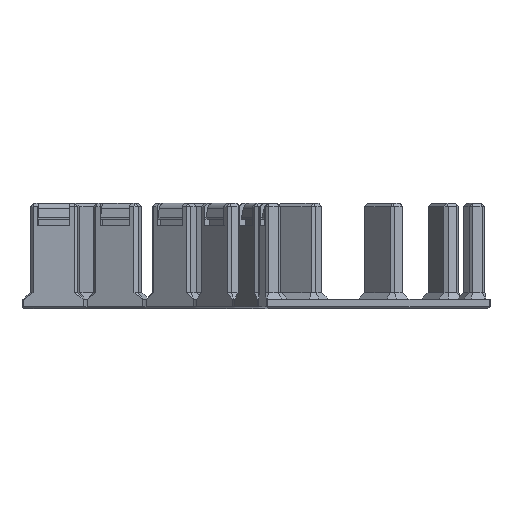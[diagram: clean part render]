
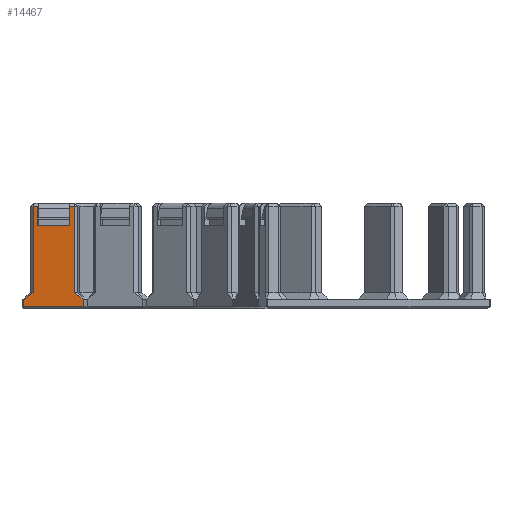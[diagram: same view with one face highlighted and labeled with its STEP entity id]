
A CAD part, front view. The second image highlights one B-rep face of the part: STEP entity #14467.
In plain terms, the highlighted planar face has unit normal (-0.131, -0.991, 0).
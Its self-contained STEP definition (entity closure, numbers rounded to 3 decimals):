
#193 = LINE ( 'NONE', #5449, #1107 ) ;
#284 = ORIENTED_EDGE ( 'NONE', *, *, #16087, .F. ) ;
#405 = CARTESIAN_POINT ( 'NONE',  ( 0., 0., 0.6 ) ) ;
#757 = ORIENTED_EDGE ( 'NONE', *, *, #11075, .T. ) ;
#1000 = CARTESIAN_POINT ( 'NONE',  ( 3.47, -0.457, 3. ) ) ;
#1028 = CARTESIAN_POINT ( 'NONE',  ( 0.222, -0.029, 2.683 ) ) ;
#1107 = VECTOR ( 'NONE', #6611, 1000. ) ;
#1164 = VERTEX_POINT ( 'NONE', #2416 ) ;
#1453 = CARTESIAN_POINT ( 'NONE',  ( 19.163, -2.523, -115.025 ) ) ;
#1605 = CARTESIAN_POINT ( 'NONE',  ( 0., 0., 3. ) ) ;
#1709 = VERTEX_POINT ( 'NONE', #2923 ) ;
#2051 = VERTEX_POINT ( 'NONE', #11899 ) ;
#2102 = ORIENTED_EDGE ( 'NONE', *, *, #5875, .T. ) ;
#2110 = ORIENTED_EDGE ( 'NONE', *, *, #13213, .F. ) ;
#2149 = EDGE_CURVE ( 'NONE', #16398, #17055, #9678, .T. ) ;
#2283 = DIRECTION ( 'NONE',  ( -0.81, 0.107, -0.577 ) ) ;
#2416 = CARTESIAN_POINT ( 'NONE',  ( 3.47, -0.457, 32. ) ) ;
#2446 = EDGE_CURVE ( 'NONE', #17071, #8688, #9128, .T. ) ;
#2448 = LINE ( 'NONE', #15890, #11977 ) ;
#2646 = CARTESIAN_POINT ( 'NONE',  ( 19.163, -2.523, 3. ) ) ;
#2894 = VECTOR ( 'NONE', #6282, 1000. ) ;
#2923 = CARTESIAN_POINT ( 'NONE',  ( 4.978, -0.655, 32. ) ) ;
#2943 = FACE_OUTER_BOUND ( 'NONE', #6278, .T. ) ;
#3035 = EDGE_CURVE ( 'NONE', #14623, #16398, #5364, .T. ) ;
#3121 = VECTOR ( 'NONE', #14956, 1000. ) ;
#3382 = LINE ( 'NONE', #10404, #5475 ) ;
#3553 = LINE ( 'NONE', #17156, #5430 ) ;
#3696 = VECTOR ( 'NONE', #15939, 1000. ) ;
#3939 = EDGE_CURVE ( 'NONE', #2051, #14623, #15708, .T. ) ;
#4006 = VECTOR ( 'NONE', #16543, 1000. ) ;
#4245 = VECTOR ( 'NONE', #16430, 1000. ) ;
#4340 = VERTEX_POINT ( 'NONE', #8563 ) ;
#4780 = VECTOR ( 'NONE', #2283, 1000. ) ;
#5056 = ORIENTED_EDGE ( 'NONE', *, *, #14574, .T. ) ;
#5364 = LINE ( 'NONE', #1453, #13915 ) ;
#5430 = VECTOR ( 'NONE', #13152, 1000. ) ;
#5438 = ORIENTED_EDGE ( 'NONE', *, *, #13066, .T. ) ;
#5449 = CARTESIAN_POINT ( 'NONE',  ( 14.785, -1.947, 26. ) ) ;
#5475 = VECTOR ( 'NONE', #6331, 1000. ) ;
#5875 = EDGE_CURVE ( 'NONE', #13545, #14283, #6796, .T. ) ;
#6278 = EDGE_LOOP ( 'NONE', ( #7380, #5056, #9437, #9543, #16404, #16015, #2102, #2110, #284, #14660, #5438, #757, #7226 ) ) ;
#6282 = DIRECTION ( 'NONE',  ( 0.991, -0.131, 0. ) ) ;
#6331 = DIRECTION ( 'NONE',  ( 0., 0., -1. ) ) ;
#6461 = DIRECTION ( 'NONE',  ( 0., 0., 1. ) ) ;
#6611 = DIRECTION ( 'NONE',  ( 0.991, -0.131, 0. ) ) ;
#6671 = CARTESIAN_POINT ( 'NONE',  ( 16.359, -2.154, 32. ) ) ;
#6789 = DIRECTION ( 'NONE',  ( 0., 0., 1. ) ) ;
#6796 = LINE ( 'NONE', #16313, #17449 ) ;
#6869 = PLANE ( 'NONE',  #13135 ) ;
#7008 = CARTESIAN_POINT ( 'NONE',  ( 6.388, -0.841, 12.112 ) ) ;
#7022 = LINE ( 'NONE', #12427, #4006 ) ;
#7159 = CARTESIAN_POINT ( 'NONE',  ( 3.47, -0.457, 5. ) ) ;
#7226 = ORIENTED_EDGE ( 'NONE', *, *, #2446, .T. ) ;
#7228 = CARTESIAN_POINT ( 'NONE',  ( 0.666, -0.088, 3. ) ) ;
#7380 = ORIENTED_EDGE ( 'NONE', *, *, #9520, .F. ) ;
#7936 = CARTESIAN_POINT ( 'NONE',  ( 4.978, -0.655, 26. ) ) ;
#8563 = CARTESIAN_POINT ( 'NONE',  ( 4.978, -0.655, 26. ) ) ;
#8688 = VERTEX_POINT ( 'NONE', #7228 ) ;
#8754 = CARTESIAN_POINT ( 'NONE',  ( 0., 0., 3. ) ) ;
#9128 = LINE ( 'NONE', #1028, #4780 ) ;
#9437 = ORIENTED_EDGE ( 'NONE', *, *, #3939, .T. ) ;
#9520 = EDGE_CURVE ( 'NONE', #14155, #8688, #13020, .T. ) ;
#9543 = ORIENTED_EDGE ( 'NONE', *, *, #3035, .T. ) ;
#9678 = LINE ( 'NONE', #7008, #4245 ) ;
#9798 = DIRECTION ( 'NONE',  ( -0.991, 0.131, 0. ) ) ;
#10404 = CARTESIAN_POINT ( 'NONE',  ( 0.345, -0.045, 3. ) ) ;
#11075 = EDGE_CURVE ( 'NONE', #1164, #17071, #12923, .T. ) ;
#11423 = CARTESIAN_POINT ( 'NONE',  ( 16.359, -2.154, 5. ) ) ;
#11899 = CARTESIAN_POINT ( 'NONE',  ( 0.345, -0.045, 0.6 ) ) ;
#11977 = VECTOR ( 'NONE', #6461, 1000. ) ;
#12427 = CARTESIAN_POINT ( 'NONE',  ( 0., 0., 32. ) ) ;
#12488 = EDGE_CURVE ( 'NONE', #4340, #1709, #13530, .T. ) ;
#12923 = LINE ( 'NONE', #1000, #3696 ) ;
#12982 = CARTESIAN_POINT ( 'NONE',  ( 19.163, -2.523, 0.6 ) ) ;
#13020 = LINE ( 'NONE', #8754, #2894 ) ;
#13066 = EDGE_CURVE ( 'NONE', #1709, #1164, #7022, .T. ) ;
#13135 = AXIS2_PLACEMENT_3D ( 'NONE', #1605, #15040, #9798 ) ;
#13152 = DIRECTION ( 'NONE',  ( 0., 0., 1. ) ) ;
#13213 = EDGE_CURVE ( 'NONE', #16670, #14283, #3553, .T. ) ;
#13530 = LINE ( 'NONE', #7936, #3121 ) ;
#13545 = VERTEX_POINT ( 'NONE', #6671 ) ;
#13915 = VECTOR ( 'NONE', #6789, 1000. ) ;
#13946 = EDGE_CURVE ( 'NONE', #17055, #13545, #2448, .T. ) ;
#14010 = CARTESIAN_POINT ( 'NONE',  ( 0.345, -0.045, 3. ) ) ;
#14155 = VERTEX_POINT ( 'NONE', #14010 ) ;
#14283 = VERTEX_POINT ( 'NONE', #17445 ) ;
#14467 = ADVANCED_FACE ( 'NONE', ( #2943 ), #6869, .F. ) ;
#14574 = EDGE_CURVE ( 'NONE', #14155, #2051, #3382, .T. ) ;
#14604 = VECTOR ( 'NONE', #15347, 1000. ) ;
#14623 = VERTEX_POINT ( 'NONE', #12982 ) ;
#14660 = ORIENTED_EDGE ( 'NONE', *, *, #12488, .T. ) ;
#14956 = DIRECTION ( 'NONE',  ( 0., 0., 1. ) ) ;
#15040 = DIRECTION ( 'NONE',  ( 0.131, 0.991, 0. ) ) ;
#15347 = DIRECTION ( 'NONE',  ( 0.991, -0.131, 0. ) ) ;
#15708 = LINE ( 'NONE', #405, #14604 ) ;
#15890 = CARTESIAN_POINT ( 'NONE',  ( 16.359, -2.154, 3. ) ) ;
#15939 = DIRECTION ( 'NONE',  ( 0., 0., -1. ) ) ;
#16015 = ORIENTED_EDGE ( 'NONE', *, *, #13946, .T. ) ;
#16087 = EDGE_CURVE ( 'NONE', #4340, #16670, #193, .T. ) ;
#16133 = CARTESIAN_POINT ( 'NONE',  ( 14.785, -1.947, 26. ) ) ;
#16313 = CARTESIAN_POINT ( 'NONE',  ( 0., 0., 32. ) ) ;
#16398 = VERTEX_POINT ( 'NONE', #2646 ) ;
#16404 = ORIENTED_EDGE ( 'NONE', *, *, #2149, .T. ) ;
#16430 = DIRECTION ( 'NONE',  ( -0.81, 0.107, 0.577 ) ) ;
#16543 = DIRECTION ( 'NONE',  ( -0.991, 0.131, 0. ) ) ;
#16575 = DIRECTION ( 'NONE',  ( -0.991, 0.131, 0. ) ) ;
#16670 = VERTEX_POINT ( 'NONE', #16133 ) ;
#17055 = VERTEX_POINT ( 'NONE', #11423 ) ;
#17071 = VERTEX_POINT ( 'NONE', #7159 ) ;
#17156 = CARTESIAN_POINT ( 'NONE',  ( 14.785, -1.947, 26. ) ) ;
#17445 = CARTESIAN_POINT ( 'NONE',  ( 14.785, -1.947, 32. ) ) ;
#17449 = VECTOR ( 'NONE', #16575, 1000. ) ;
